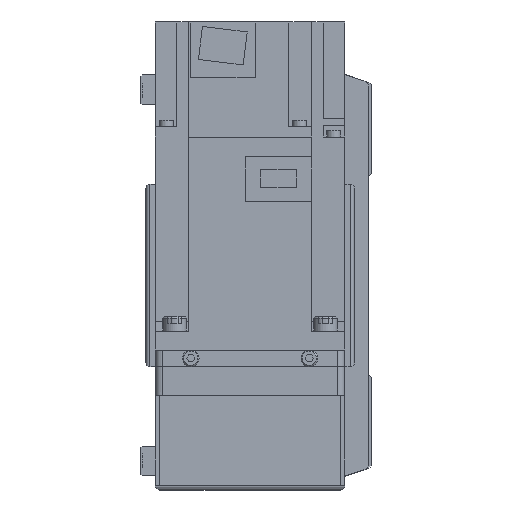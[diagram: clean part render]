
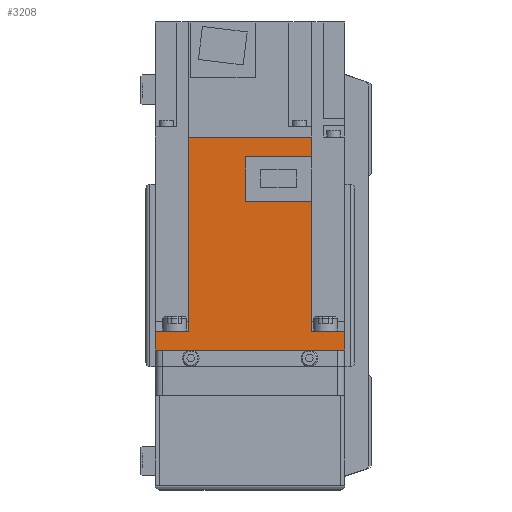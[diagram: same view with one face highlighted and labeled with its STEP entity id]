
A CAD part, left-side view. The second image highlights one B-rep face of the part: STEP entity #3208.
In plain terms, the highlighted planar face has unit normal (-1, 0, 0) as drawn and (1, 0, 0) by its records, which use the part's own axes.
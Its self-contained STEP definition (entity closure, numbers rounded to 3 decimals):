
#3208 = ADVANCED_FACE( '', ( #6648 ), #6649, .F. );
#6648 = FACE_OUTER_BOUND( '', #10080, .T. );
#6649 = PLANE( '', #10081 );
#10080 = EDGE_LOOP( '', ( #19122, #19123, #19124, #19125, #19126, #19127, #19128, #19129, #19130, #19131, #19132, #19133 ) );
#10081 = AXIS2_PLACEMENT_3D( '', #19134, #19135, #19136 );
#19122 = ORIENTED_EDGE( '', *, *, #22307, .F. );
#19123 = ORIENTED_EDGE( '', *, *, #22805, .F. );
#19124 = ORIENTED_EDGE( '', *, *, #20802, .F. );
#19125 = ORIENTED_EDGE( '', *, *, #21759, .T. );
#19126 = ORIENTED_EDGE( '', *, *, #20234, .F. );
#19127 = ORIENTED_EDGE( '', *, *, #22283, .T. );
#19128 = ORIENTED_EDGE( '', *, *, #22667, .T. );
#19129 = ORIENTED_EDGE( '', *, *, #22453, .F. );
#19130 = ORIENTED_EDGE( '', *, *, #20477, .F. );
#19131 = ORIENTED_EDGE( '', *, *, #22806, .F. );
#19132 = ORIENTED_EDGE( '', *, *, #21938, .F. );
#19133 = ORIENTED_EDGE( '', *, *, #22249, .F. );
#19134 = CARTESIAN_POINT( '', ( 40., 89.8, 40. ) );
#19135 = DIRECTION( '', ( -1., 0., 0. ) );
#19136 = DIRECTION( '', ( 0., 0., 1. ) );
#20234 = EDGE_CURVE( '', #24416, #24418, #24419, .T. );
#20477 = EDGE_CURVE( '', #24818, #24819, #24820, .T. );
#20802 = EDGE_CURVE( '', #25352, #25350, #25354, .T. );
#21759 = EDGE_CURVE( '', #25352, #24418, #26792, .T. );
#21938 = EDGE_CURVE( '', #27052, #25594, #27053, .T. );
#22249 = EDGE_CURVE( '', #27474, #27052, #27475, .T. );
#22283 = EDGE_CURVE( '', #24416, #27512, #27514, .T. );
#22307 = EDGE_CURVE( '', #25593, #27474, #27544, .T. );
#22453 = EDGE_CURVE( '', #24819, #27720, #27721, .T. );
#22667 = EDGE_CURVE( '', #27512, #27720, #27980, .T. );
#22805 = EDGE_CURVE( '', #25350, #25593, #28134, .T. );
#22806 = EDGE_CURVE( '', #25594, #24818, #28135, .T. );
#24416 = VERTEX_POINT( '', #30385 );
#24418 = VERTEX_POINT( '', #30388 );
#24419 = LINE( '', #30389, #30390 );
#24818 = VERTEX_POINT( '', #30965 );
#24819 = VERTEX_POINT( '', #30966 );
#24820 = LINE( '', #30967, #30968 );
#25350 = VERTEX_POINT( '', #31941 );
#25352 = VERTEX_POINT( '', #31944 );
#25354 = LINE( '', #31947, #31948 );
#25593 = VERTEX_POINT( '', #32325 );
#25594 = VERTEX_POINT( '', #32326 );
#26792 = LINE( '', #34132, #34133 );
#27052 = VERTEX_POINT( '', #34486 );
#27053 = LINE( '', #34487, #34488 );
#27474 = VERTEX_POINT( '', #35134 );
#27475 = LINE( '', #35135, #35136 );
#27512 = VERTEX_POINT( '', #35186 );
#27514 = LINE( '', #35189, #35190 );
#27544 = LINE( '', #35229, #35230 );
#27720 = VERTEX_POINT( '', #35491 );
#27721 = LINE( '', #35492, #35493 );
#27980 = LINE( '', #35893, #35894 );
#28134 = LINE( '', #36090, #36091 );
#28135 = LINE( '', #36092, #36093 );
#30385 = CARTESIAN_POINT( '', ( 40., 8., 40. ) );
#30388 = CARTESIAN_POINT( '', ( 40., 8., 25.95 ) );
#30389 = CARTESIAN_POINT( '', ( 40., 8., 40. ) );
#30390 = VECTOR( '', #37384, 1000. );
#30965 = CARTESIAN_POINT( '', ( 40., 8., -25.95 ) );
#30966 = CARTESIAN_POINT( '', ( 40., 8., -40. ) );
#30967 = CARTESIAN_POINT( '', ( 40., 8., 40. ) );
#30968 = VECTOR( '', #37686, 1000. );
#31941 = CARTESIAN_POINT( '', ( 40., 89.8, -25.95 ) );
#31944 = CARTESIAN_POINT( '', ( 40., 89.8, 25.95 ) );
#31947 = CARTESIAN_POINT( '', ( 40., 89.8, 40. ) );
#31948 = VECTOR( '', #38073, 1000. );
#32325 = CARTESIAN_POINT( '', ( 40., 81.4, -25.95 ) );
#32326 = CARTESIAN_POINT( '', ( 40., 62.8, -25.95 ) );
#34132 = CARTESIAN_POINT( '', ( 40., 158., 25.95 ) );
#34133 = VECTOR( '', #39297, 1000. );
#34486 = CARTESIAN_POINT( '', ( 40., 62.8, 1.8 ) );
#34487 = CARTESIAN_POINT( '', ( 40., 62.8, 1.8 ) );
#34488 = VECTOR( '', #39503, 1000. );
#35134 = CARTESIAN_POINT( '', ( 40., 81.4, 1.8 ) );
#35135 = CARTESIAN_POINT( '', ( 40., 81.4, 1.8 ) );
#35136 = VECTOR( '', #39851, 1000. );
#35186 = CARTESIAN_POINT( '', ( 40., 0., 40. ) );
#35189 = CARTESIAN_POINT( '', ( 40., 89.8, 40. ) );
#35190 = VECTOR( '', #39887, 1000. );
#35229 = CARTESIAN_POINT( '', ( 40., 81.4, -26. ) );
#35230 = VECTOR( '', #39909, 1000. );
#35491 = CARTESIAN_POINT( '', ( 40., 0., -40. ) );
#35492 = CARTESIAN_POINT( '', ( 40., 89.8, -40. ) );
#35493 = VECTOR( '', #40050, 1000. );
#35893 = CARTESIAN_POINT( '', ( 40., 0., 40. ) );
#35894 = VECTOR( '', #40245, 1000. );
#36090 = CARTESIAN_POINT( '', ( 40., 158., -25.95 ) );
#36091 = VECTOR( '', #40370, 1000. );
#36092 = CARTESIAN_POINT( '', ( 40., 158., -25.95 ) );
#36093 = VECTOR( '', #40371, 1000. );
#37384 = DIRECTION( '', ( 0., 0., -1. ) );
#37686 = DIRECTION( '', ( 0., 0., -1. ) );
#38073 = DIRECTION( '', ( 0., 0., -1. ) );
#39297 = DIRECTION( '', ( 0., -1., 0. ) );
#39503 = DIRECTION( '', ( 0., 0., -1. ) );
#39851 = DIRECTION( '', ( 0., -1., 0. ) );
#39887 = DIRECTION( '', ( 0., -1., 0. ) );
#39909 = DIRECTION( '', ( 0., 0., 1. ) );
#40050 = DIRECTION( '', ( 0., -1., 0. ) );
#40245 = DIRECTION( '', ( 0., 0., -1. ) );
#40370 = DIRECTION( '', ( 0., -1., 0. ) );
#40371 = DIRECTION( '', ( 0., -1., 0. ) );
